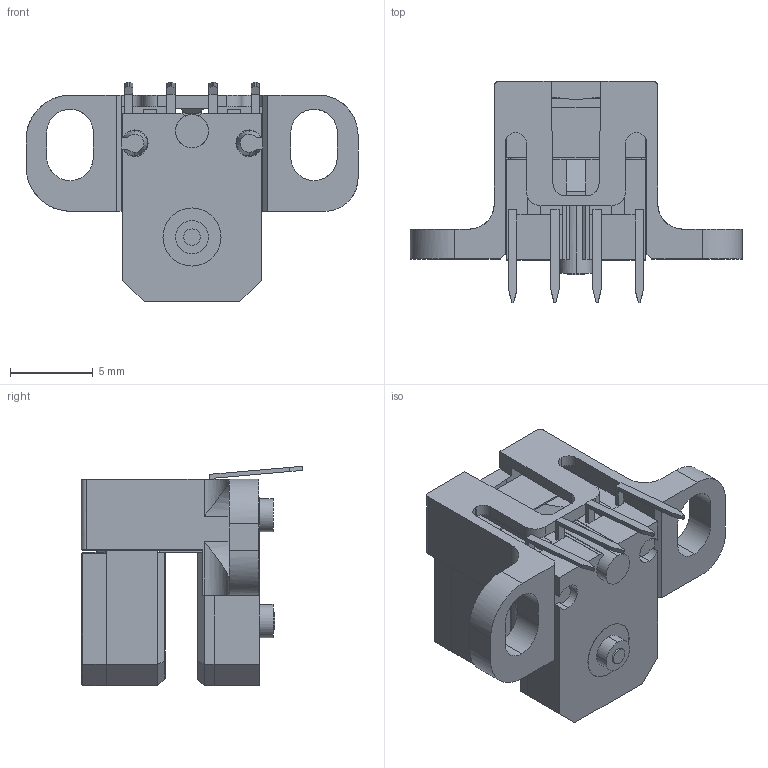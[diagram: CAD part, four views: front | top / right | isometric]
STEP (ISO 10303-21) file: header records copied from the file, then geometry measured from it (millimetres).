
FILE_DESCRIPTION (( 'STEP AP214' ), '1' );
FILE_NAME ('RS97俔褒湍嫉嗡.STEP', '2024-05-30T07:39:49', ( 'dell' ), ( '' ), 'SwSTEP 2.0', 'SolidWorks 2021', '' );
FILE_SCHEMA (( 'AUTOMOTIVE_DESIGN' ));
Length unit declared in the file: millimetre
Products named in the file (1): RS97俔褒湍嫉嗡
Bounding box: 20 x 13.34 x 13.23 mm (x, y, z)
Volume: 1039 mm3; surface area: 1493.1 mm2
Topology: 6 solids, 6 shells, 339 faces, 915 edges, 585 vertices
Faces by surface type: plane 225, cylinder 90, bspline 16, cone 8
Entity records: 15236 total; most frequent: CARTESIAN_POINT 3589, ORIENTED_EDGE 1826, DIRECTION 1513, EDGE_CURVE 913, VECTOR 681, LINE 681, VERTEX_POINT 585, AXIS2_PLACEMENT_3D 416
